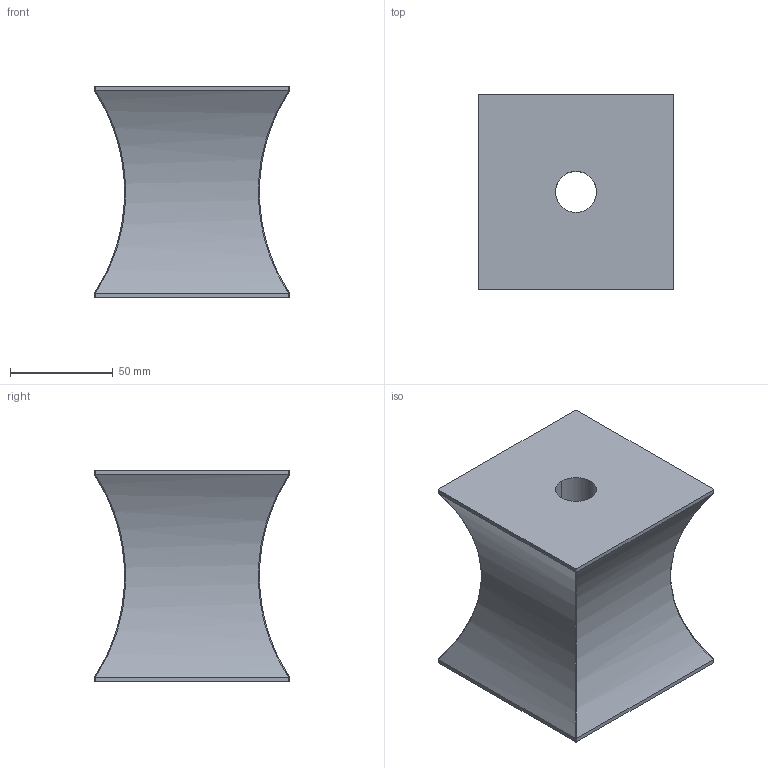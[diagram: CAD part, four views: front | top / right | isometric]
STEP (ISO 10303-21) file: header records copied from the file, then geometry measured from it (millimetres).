
FILE_DESCRIPTION(/* description */ (''),/* implementation_level */ '2;1');
FILE_NAME(/* name */ '3d_qx95-103_06523_r00.stp',/* time_stamp */ '2011-01-10T14:11:39+09:00',/* author */ ('MISUMI'),/* organization */ (''),/* preprocessor_version */ 'ST-DEVELOPER v11',/* originating_system */ 'UGS - NX 5.0',/* authorisation */ '');
FILE_SCHEMA (('CONFIG_CONTROL_DESIGN'));
Length unit declared in the file: millimetre
Products named in the file (1): 3d_qx95-103_06523_r00
Bounding box: 95 x 95 x 103 mm (x, y, z)
Volume: 567874.5 mm3; surface area: 56949.3 mm2
Topology: 1 solids, 1 shells, 28 faces, 78 edges, 52 vertices
Faces by surface type: cylinder 14, plane 10, bspline 4
Entity records: 4928 total; most frequent: CARTESIAN_POINT 4179, ORIENTED_EDGE 156, DIRECTION 108, EDGE_CURVE 78, VERTEX_POINT 52, AXIS2_PLACEMENT_3D 37, LINE 34, VECTOR 34
